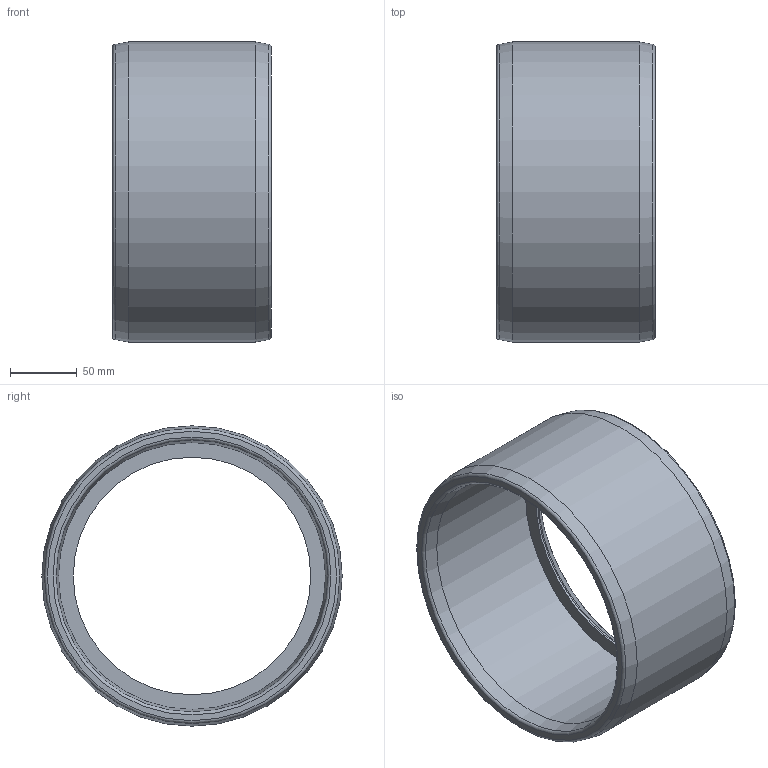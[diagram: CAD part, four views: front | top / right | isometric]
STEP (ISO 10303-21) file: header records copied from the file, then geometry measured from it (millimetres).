
FILE_DESCRIPTION(/* description */ ('PLASSON BUSHING-CEMENT PVC 225-200'),/* implementation_level */ '2;1');
FILE_NAME(/* name */ 'C:\Dropbox\KIMPROJECTS-Inventor\99-16-3568-Processing\PVC Catalog 2017\050900\050900225200.ipt.stp',/* time_stamp */ '2017-12-07T16:00:03+02:00',/* author */ ('KIM'),/* organization */ (''),/* preprocessor_version */ 'ST-DEVELOPER v15.6',/* originating_system */ 'Autodesk Inventor 2015',/* authorisation */ '');
FILE_SCHEMA (('AUTOMOTIVE_DESIGN { 1 0 10303 214 3 1 1 }'));
Length unit declared in the file: millimetre
Products named in the file (1): 050900225200
Bounding box: 119 x 225 x 225 mm (x, y, z)
Volume: 1020841.5 mm3; surface area: 179044.7 mm2
Topology: 1 solids, 1 shells, 15 faces, 27 edges, 15 vertices
Faces by surface type: torus 5, cone 4, cylinder 3, plane 3
Full cylindrical faces by diameter (mm): 178 x1, 200 x1, 225 x1
Entity records: 332 total; most frequent: DIRECTION 62, CARTESIAN_POINT 46, AXIS2_PLACEMENT_3D 31, EDGE_LOOP 30, ORIENTED_EDGE 30, FACE_BOUND 15, FACE_OUTER_BOUND 15, CIRCLE 15
